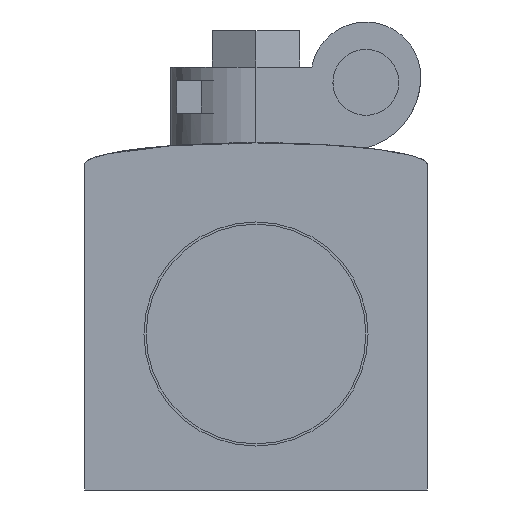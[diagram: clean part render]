
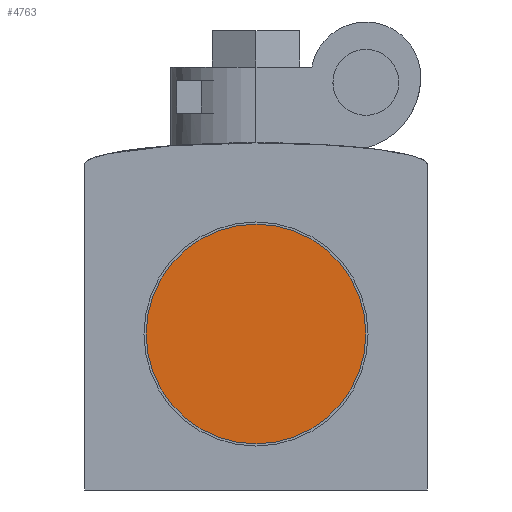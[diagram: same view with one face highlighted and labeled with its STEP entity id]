
A CAD part, front view. The second image highlights one B-rep face of the part: STEP entity #4763.
In plain terms, the highlighted planar face has unit normal (0, -1, 0).
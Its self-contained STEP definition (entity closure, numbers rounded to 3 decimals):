
#18 = ORIENTED_EDGE ( 'NONE', *, *, #9190, .F. ) ;
#601 = ORIENTED_EDGE ( 'NONE', *, *, #13360, .F. ) ;
#1335 = CARTESIAN_POINT ( 'NONE',  ( 0., -24., 12. ) ) ;
#1586 = DIRECTION ( 'NONE',  ( 0., 0., 1. ) ) ;
#1734 = DIRECTION ( 'NONE',  ( 0., 1., 0. ) ) ;
#2985 = PLANE ( 'NONE',  #11060 ) ;
#3284 = DIRECTION ( 'NONE',  ( 0., 0., 1. ) ) ;
#4639 = VERTEX_POINT ( 'NONE', #9498 ) ;
#4763 = ADVANCED_FACE ( 'NONE', ( #13661 ), #2985, .F. ) ;
#5456 = DIRECTION ( 'NONE',  ( 0., 0., 1. ) ) ;
#6376 = CARTESIAN_POINT ( 'NONE',  ( 0., -24., 2. ) ) ;
#6968 = AXIS2_PLACEMENT_3D ( 'NONE', #7778, #12485, #3284 ) ;
#7752 = VERTEX_POINT ( 'NONE', #1335 ) ;
#7778 = CARTESIAN_POINT ( 'NONE',  ( 0., -24., 2. ) ) ;
#9190 = EDGE_CURVE ( 'NONE', #4639, #7752, #11316, .T. ) ;
#9498 = CARTESIAN_POINT ( 'NONE',  ( 0., -24., -8. ) ) ;
#9878 = DIRECTION ( 'NONE',  ( 0., 1., 0. ) ) ;
#11060 = AXIS2_PLACEMENT_3D ( 'NONE', #12425, #9878, #5456 ) ;
#11316 = CIRCLE ( 'NONE', #14538, 10. ) ;
#12425 = CARTESIAN_POINT ( 'NONE',  ( 0., -24., 12. ) ) ;
#12485 = DIRECTION ( 'NONE',  ( 0., 1., 0. ) ) ;
#12936 = EDGE_LOOP ( 'NONE', ( #601, #18 ) ) ;
#13360 = EDGE_CURVE ( 'NONE', #7752, #4639, #14086, .T. ) ;
#13661 = FACE_OUTER_BOUND ( 'NONE', #12936, .T. ) ;
#14086 = CIRCLE ( 'NONE', #6968, 10. ) ;
#14538 = AXIS2_PLACEMENT_3D ( 'NONE', #6376, #1734, #1586 ) ;
